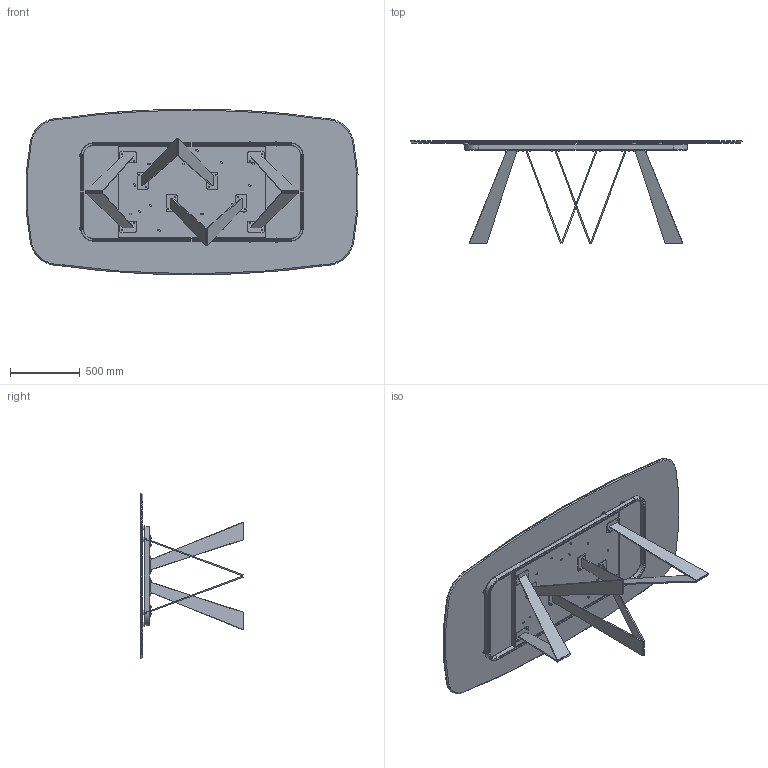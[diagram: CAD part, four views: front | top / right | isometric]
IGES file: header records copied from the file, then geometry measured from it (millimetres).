
Start section: SolidWorks IGES file using analytic representation for surfaces
Global section: file name: Y:\eforma\TECNICO\SOLIDWORKS\E-FORMA\1-TAVOLI\NOA TAVOLO\02 parts\NO42C_Noa_239x119x75h_Ceramic Shaped.IGS; native system: SolidWorks 2022; preprocessor: SolidWorks 2022; author: eforma.tech; date: 240807.163301; units: millimetre
Bounding box: 2382.15 x 735.8 x 1190 mm (x, y, z)
Volume: 50923097.4 mm3; surface area: 14606262.3 mm2
Topology: 71 solids, 71 shells, 1497 faces, 3421 edges, 2050 vertices
Faces by surface type: revolution 911, plane 586
